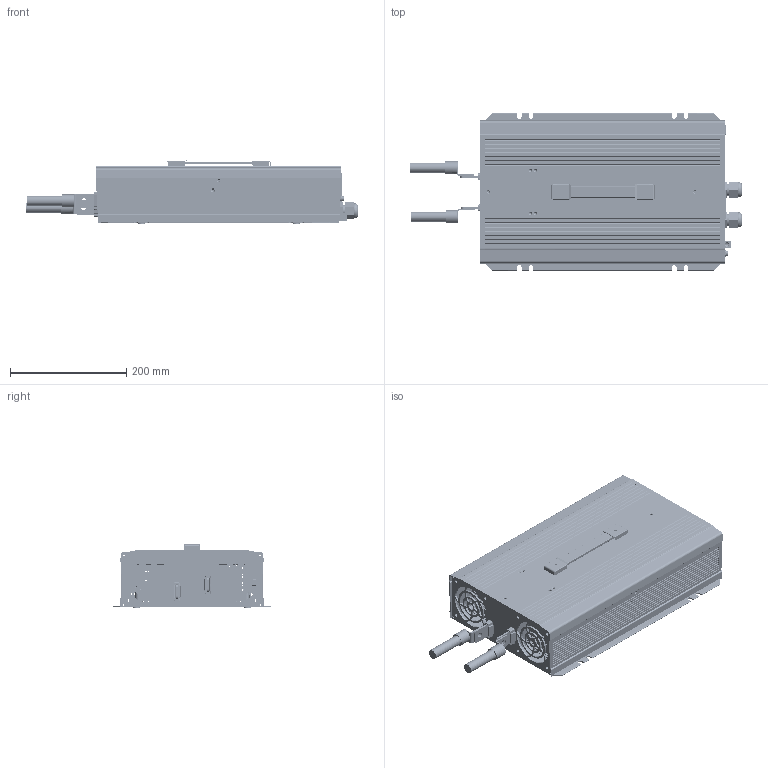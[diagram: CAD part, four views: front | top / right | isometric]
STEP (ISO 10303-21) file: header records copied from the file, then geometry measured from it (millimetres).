
FILE_DESCRIPTION(('Creo Elements/Direct Modeling STEP Export'),'2;1');
FILE_NAME('NTS-3200-UK.stp','2022-03-28T18:36:47',(''),(''),'PTC Creo Elements/Direct Modeling STEP processor for AP214 (Solid Model)','PTC Creo Elements/Direct Modeling 19.0E 27-Jun-2016 (C) Parametric Technology GmbH','');
FILE_SCHEMA(('AUTOMOTIVE_DESIGN { 1 0 10303 214 1 1 1 1 }'));
Length unit declared in the file: millimetre
Products named in the file (228): 零件9; 零件8; 零件7; 零件6; 零件5; 零件4; 零件3; 零件2; 零件12; 零件11; 零件10; 零件1; 电容; 万国插片; open_shell.1; guwei1.1; guwei1; _S_4_X2_0192_X0__S__S_6_S___S_U; _S_4_X2_0192_X0__S_; TO220.21; TO220.9; TO220.8; TO220.7; TO220.6; TO220.5; TO220.4; TO220.3; TO220.20; TO220.2; TO220.19; TO220.18; TO220.17; TO220.16; TO220.15; TO220.14; TO220.13; TO220.12; TO220.11; TO220.10; TO220.1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
Assembly tree (130 placements, depth 2):
  零件9
  零件8
  零件7
  零件6
  零件5
    零件5
Bounding box: 570.16 x 270 x 108.65 mm (x, y, z)
Volume: 2376259.9 mm3; surface area: 2034872.6 mm2
Topology: 150 solids, 153 shells, 7677 faces, 20864 edges, 13769 vertices
Faces by surface type: plane 4651, cylinder 2575, cone 251, torus 141, bspline 48, sphere 10, extrusion 1
Entity records: 611829 total; most frequent: CARTESIAN_POINT 456443, ORIENTED_EDGE 30929, DIRECTION 28183, EDGE_CURVE 15467, VECTOR 11047, LINE 11046, VERTEX_POINT 10180, AXIS2_PLACEMENT_3D 8568
